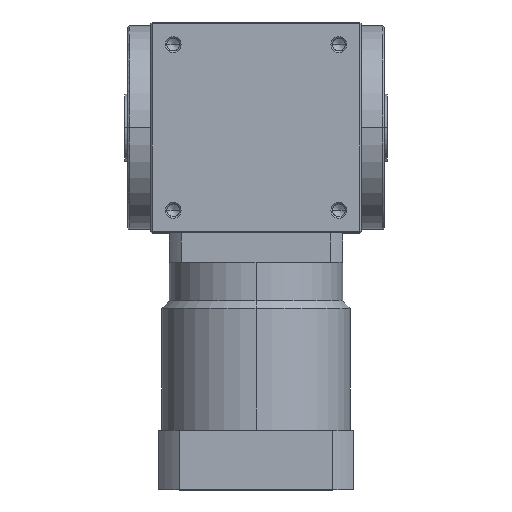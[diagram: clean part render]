
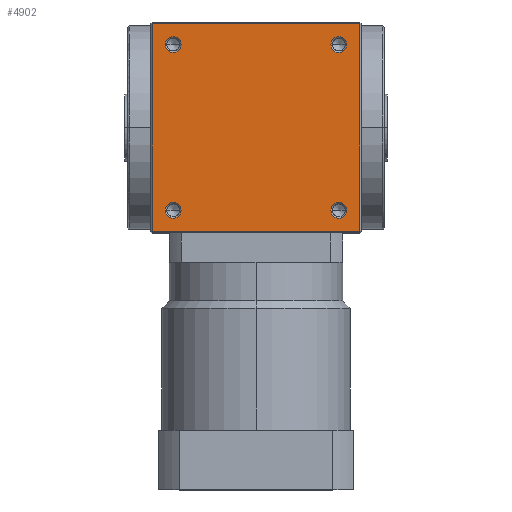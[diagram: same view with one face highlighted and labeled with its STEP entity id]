
A CAD part, top view. The second image highlights one B-rep face of the part: STEP entity #4902.
In plain terms, the highlighted planar face has unit normal (0, 0, 1).
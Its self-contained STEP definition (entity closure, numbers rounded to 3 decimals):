
#42 = EDGE_CURVE ( 'NONE', #2333, #10211, #5716, .T. ) ;
#377 = CARTESIAN_POINT ( 'NONE',  ( -55., 55., 70. ) ) ;
#583 = EDGE_LOOP ( 'NONE', ( #705, #8349 ) ) ;
#607 = CARTESIAN_POINT ( 'NONE',  ( 69., -69., 70. ) ) ;
#705 = ORIENTED_EDGE ( 'NONE', *, *, #6552, .F. ) ;
#734 = DIRECTION ( 'NONE',  ( 1., 0., 0. ) ) ;
#746 = CARTESIAN_POINT ( 'NONE',  ( 60.25, 55., 70. ) ) ;
#978 = VECTOR ( 'NONE', #7257, 1000. ) ;
#986 = VERTEX_POINT ( 'NONE', #3101 ) ;
#1197 = EDGE_CURVE ( 'NONE', #1330, #7855, #6878, .T. ) ;
#1279 = DIRECTION ( 'NONE',  ( 1., 0., 0. ) ) ;
#1330 = VERTEX_POINT ( 'NONE', #7501 ) ;
#1535 = CARTESIAN_POINT ( 'NONE',  ( -55., -55., 70. ) ) ;
#1555 = CARTESIAN_POINT ( 'NONE',  ( -69., 69., 70. ) ) ;
#1987 = CIRCLE ( 'NONE', #3674, 5.25 ) ;
#1996 = AXIS2_PLACEMENT_3D ( 'NONE', #377, #6596, #1279 ) ;
#2066 = FACE_BOUND ( 'NONE', #9297, .T. ) ;
#2215 = ORIENTED_EDGE ( 'NONE', *, *, #8182, .F. ) ;
#2333 = VERTEX_POINT ( 'NONE', #10713 ) ;
#2406 = EDGE_CURVE ( 'NONE', #6527, #7646, #4114, .T. ) ;
#2422 = DIRECTION ( 'NONE',  ( 1., 0., 0. ) ) ;
#2742 = VECTOR ( 'NONE', #3748, 1000. ) ;
#2938 = DIRECTION ( 'NONE',  ( 0., -1., 0. ) ) ;
#3101 = CARTESIAN_POINT ( 'NONE',  ( 49.75, 55., 70. ) ) ;
#3103 = CARTESIAN_POINT ( 'NONE',  ( -55., -55., 70. ) ) ;
#3298 = AXIS2_PLACEMENT_3D ( 'NONE', #3973, #10181, #4864 ) ;
#3362 = DIRECTION ( 'NONE',  ( 0., 0., 1. ) ) ;
#3384 = CARTESIAN_POINT ( 'NONE',  ( 0., 69., 70. ) ) ;
#3450 = ORIENTED_EDGE ( 'NONE', *, *, #7734, .F. ) ;
#3497 = ORIENTED_EDGE ( 'NONE', *, *, #11012, .F. ) ;
#3556 = CARTESIAN_POINT ( 'NONE',  ( 0., 0., 70. ) ) ;
#3601 = EDGE_CURVE ( 'NONE', #7646, #6527, #4503, .T. ) ;
#3626 = AXIS2_PLACEMENT_3D ( 'NONE', #10258, #4930, #11139 ) ;
#3674 = AXIS2_PLACEMENT_3D ( 'NONE', #3103, #9323, #3997 ) ;
#3710 = VECTOR ( 'NONE', #2938, 1000. ) ;
#3748 = DIRECTION ( 'NONE',  ( 0., 1., 0. ) ) ;
#3756 = DIRECTION ( 'NONE',  ( -1., 0., 0. ) ) ;
#3820 = EDGE_CURVE ( 'NONE', #8885, #5471, #1987, .T. ) ;
#3941 = ORIENTED_EDGE ( 'NONE', *, *, #3601, .F. ) ;
#3973 = CARTESIAN_POINT ( 'NONE',  ( -55., 55., 70. ) ) ;
#3997 = DIRECTION ( 'NONE',  ( 1., 0., 0. ) ) ;
#4046 = VECTOR ( 'NONE', #3756, 1000. ) ;
#4074 = CIRCLE ( 'NONE', #6653, 5.25 ) ;
#4114 = CIRCLE ( 'NONE', #1996, 5.25 ) ;
#4433 = FACE_BOUND ( 'NONE', #7714, .T. ) ;
#4448 = DIRECTION ( 'NONE',  ( -1., 0., 0. ) ) ;
#4503 = CIRCLE ( 'NONE', #3298, 5.25 ) ;
#4711 = CARTESIAN_POINT ( 'NONE',  ( 55., 55., 70. ) ) ;
#4811 = ORIENTED_EDGE ( 'NONE', *, *, #2406, .F. ) ;
#4864 = DIRECTION ( 'NONE',  ( 1., 0., 0. ) ) ;
#4902 = ADVANCED_FACE ( 'NONE', ( #4433, #10964, #2066, #8590, #6219 ), #11504, .F. ) ;
#4930 = DIRECTION ( 'NONE',  ( 0., 0., 1. ) ) ;
#5275 = AXIS2_PLACEMENT_3D ( 'NONE', #3556, #9771, #4448 ) ;
#5469 = CARTESIAN_POINT ( 'NONE',  ( 0., -69., 70. ) ) ;
#5471 = VERTEX_POINT ( 'NONE', #9616 ) ;
#5580 = DIRECTION ( 'NONE',  ( 1., 0., 0. ) ) ;
#5716 = LINE ( 'NONE', #3384, #978 ) ;
#6069 = DIRECTION ( 'NONE',  ( 0., 0., 1. ) ) ;
#6146 = CIRCLE ( 'NONE', #7108, 5.25 ) ;
#6219 = FACE_OUTER_BOUND ( 'NONE', #10472, .T. ) ;
#6295 = EDGE_CURVE ( 'NONE', #6967, #10934, #6675, .T. ) ;
#6461 = CARTESIAN_POINT ( 'NONE',  ( 60.25, -55., 70. ) ) ;
#6527 = VERTEX_POINT ( 'NONE', #6658 ) ;
#6552 = EDGE_CURVE ( 'NONE', #7855, #1330, #9610, .T. ) ;
#6596 = DIRECTION ( 'NONE',  ( 0., 0., 1. ) ) ;
#6653 = AXIS2_PLACEMENT_3D ( 'NONE', #1535, #7723, #2422 ) ;
#6658 = CARTESIAN_POINT ( 'NONE',  ( -49.75, 55., 70. ) ) ;
#6675 = LINE ( 'NONE', #5469, #4046 ) ;
#6878 = CIRCLE ( 'NONE', #3626, 5.25 ) ;
#6967 = VERTEX_POINT ( 'NONE', #607 ) ;
#7108 = AXIS2_PLACEMENT_3D ( 'NONE', #4711, #10926, #5580 ) ;
#7201 = CARTESIAN_POINT ( 'NONE',  ( -49.75, -55., 70. ) ) ;
#7257 = DIRECTION ( 'NONE',  ( -1., 0., 0. ) ) ;
#7273 = ORIENTED_EDGE ( 'NONE', *, *, #3820, .F. ) ;
#7290 = CIRCLE ( 'NONE', #11340, 5.25 ) ;
#7347 = CARTESIAN_POINT ( 'NONE',  ( 69., 0., 70. ) ) ;
#7458 = LINE ( 'NONE', #8153, #2742 ) ;
#7501 = CARTESIAN_POINT ( 'NONE',  ( 49.75, -55., 70. ) ) ;
#7646 = VERTEX_POINT ( 'NONE', #10671 ) ;
#7711 = ORIENTED_EDGE ( 'NONE', *, *, #9827, .F. ) ;
#7714 = EDGE_LOOP ( 'NONE', ( #4811, #3941 ) ) ;
#7723 = DIRECTION ( 'NONE',  ( 0., 0., 1. ) ) ;
#7734 = EDGE_CURVE ( 'NONE', #986, #10278, #6146, .T. ) ;
#7855 = VERTEX_POINT ( 'NONE', #6461 ) ;
#8153 = CARTESIAN_POINT ( 'NONE',  ( -69., 0., 70. ) ) ;
#8182 = EDGE_CURVE ( 'NONE', #5471, #8885, #4074, .T. ) ;
#8349 = ORIENTED_EDGE ( 'NONE', *, *, #1197, .F. ) ;
#8422 = ORIENTED_EDGE ( 'NONE', *, *, #10583, .F. ) ;
#8590 = FACE_BOUND ( 'NONE', #583, .T. ) ;
#8601 = ORIENTED_EDGE ( 'NONE', *, *, #42, .T. ) ;
#8670 = CARTESIAN_POINT ( 'NONE',  ( 55., 55., 70. ) ) ;
#8674 = EDGE_LOOP ( 'NONE', ( #3497, #3450 ) ) ;
#8885 = VERTEX_POINT ( 'NONE', #7201 ) ;
#9297 = EDGE_LOOP ( 'NONE', ( #7273, #2215 ) ) ;
#9323 = DIRECTION ( 'NONE',  ( 0., 0., 1. ) ) ;
#9594 = DIRECTION ( 'NONE',  ( 1., 0., 0. ) ) ;
#9610 = CIRCLE ( 'NONE', #10432, 5.25 ) ;
#9616 = CARTESIAN_POINT ( 'NONE',  ( -60.25, -55., 70. ) ) ;
#9771 = DIRECTION ( 'NONE',  ( 0., 0., -1. ) ) ;
#9827 = EDGE_CURVE ( 'NONE', #10934, #10211, #7458, .T. ) ;
#10181 = DIRECTION ( 'NONE',  ( 0., 0., 1. ) ) ;
#10211 = VERTEX_POINT ( 'NONE', #1555 ) ;
#10258 = CARTESIAN_POINT ( 'NONE',  ( 55., -55., 70. ) ) ;
#10278 = VERTEX_POINT ( 'NONE', #746 ) ;
#10432 = AXIS2_PLACEMENT_3D ( 'NONE', #11412, #6069, #734 ) ;
#10472 = EDGE_LOOP ( 'NONE', ( #11541, #8422, #8601, #7711 ) ) ;
#10583 = EDGE_CURVE ( 'NONE', #2333, #6967, #10785, .T. ) ;
#10671 = CARTESIAN_POINT ( 'NONE',  ( -60.25, 55., 70. ) ) ;
#10713 = CARTESIAN_POINT ( 'NONE',  ( 69., 69., 70. ) ) ;
#10785 = LINE ( 'NONE', #7347, #3710 ) ;
#10926 = DIRECTION ( 'NONE',  ( 0., 0., 1. ) ) ;
#10934 = VERTEX_POINT ( 'NONE', #11249 ) ;
#10964 = FACE_BOUND ( 'NONE', #8674, .T. ) ;
#11012 = EDGE_CURVE ( 'NONE', #10278, #986, #7290, .T. ) ;
#11139 = DIRECTION ( 'NONE',  ( 1., 0., 0. ) ) ;
#11249 = CARTESIAN_POINT ( 'NONE',  ( -69., -69., 70. ) ) ;
#11340 = AXIS2_PLACEMENT_3D ( 'NONE', #8670, #3362, #9594 ) ;
#11412 = CARTESIAN_POINT ( 'NONE',  ( 55., -55., 70. ) ) ;
#11504 = PLANE ( 'NONE',  #5275 ) ;
#11541 = ORIENTED_EDGE ( 'NONE', *, *, #6295, .F. ) ;
